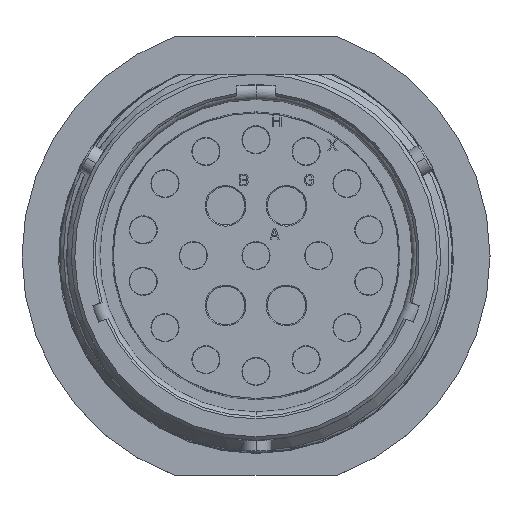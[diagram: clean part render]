
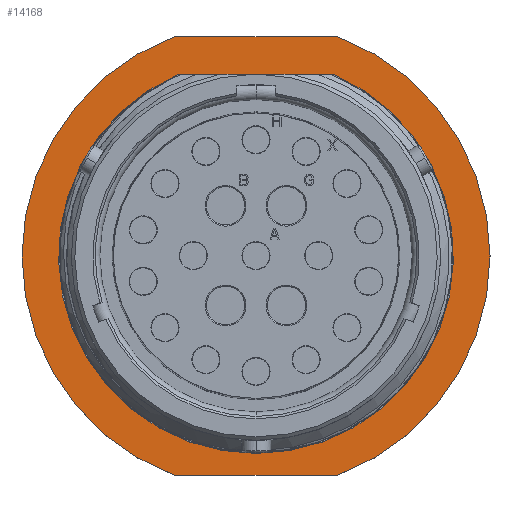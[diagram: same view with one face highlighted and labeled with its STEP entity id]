
A CAD part, top view. The second image highlights one B-rep face of the part: STEP entity #14168.
In plain terms, the highlighted planar face has unit normal (0, 0, 1).
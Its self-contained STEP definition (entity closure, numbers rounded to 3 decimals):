
#2253=CARTESIAN_POINT('',(0.,0.,-26.162));
#2254=DIRECTION('',(0.,0.,-1.));
#2255=DIRECTION('',(0.397,0.918,0.));
#2256=AXIS2_PLACEMENT_3D('',#2253,#2254,#2255);
#2262=DIRECTION('',(-1.,0.,0.));
#2263=VECTOR('',#2262,17.678);
#2264=CARTESIAN_POINT('',(8.839,-23.813,-26.162));
#2265=LINE('',#2264,#2263);
#2266=CARTESIAN_POINT('',(0.,0.,-26.162));
#2267=DIRECTION('',(0.,0.,1.));
#2268=DIRECTION('',(-0.348,0.938,0.));
#2269=AXIS2_PLACEMENT_3D('',#2266,#2267,#2268);
#2271=DIRECTION('',(1.,0.,0.));
#2272=VECTOR('',#2271,17.678);
#2273=CARTESIAN_POINT('',(-8.839,23.813,-26.162));
#2274=LINE('',#2273,#2272);
#2275=CARTESIAN_POINT('',(0.,0.,-26.162));
#2276=DIRECTION('',(0.,0.,-1.));
#2277=DIRECTION('',(0.348,0.938,0.));
#2278=AXIS2_PLACEMENT_3D('',#2275,#2276,#2277);
#2280=DIRECTION('',(1.,0.,0.));
#2281=VECTOR('',#2280,17.035);
#2282=CARTESIAN_POINT('',(-8.518,19.666,-26.162));
#2283=LINE('',#2282,#2281);
#7078=CARTESIAN_POINT('',(-8.839,-23.813,-26.162));
#7079=VERTEX_POINT('',#7078);
#7080=CARTESIAN_POINT('',(-8.839,23.813,-26.162));
#7081=VERTEX_POINT('',#7080);
#7082=CARTESIAN_POINT('',(8.839,-23.813,-26.162));
#7083=VERTEX_POINT('',#7082);
#7084=CARTESIAN_POINT('',(8.839,23.813,-26.162));
#7085=VERTEX_POINT('',#7084);
#7245=CARTESIAN_POINT('',(-8.518,19.666,-26.162));
#7247=VERTEX_POINT('',#7245);
#7291=CARTESIAN_POINT('',(8.518,19.666,-26.162));
#7292=VERTEX_POINT('',#7291);
#14149=CARTESIAN_POINT('',(0.,0.,-26.162));
#14150=DIRECTION('',(0.,0.,1.));
#14151=DIRECTION('',(0.,1.,0.));
#14152=AXIS2_PLACEMENT_3D('',#14149,#14150,#14151);
#14153=PLANE('',#14152);
#14155=ORIENTED_EDGE('',*,*,#14154,.T.);
#14157=ORIENTED_EDGE('',*,*,#14156,.F.);
#14159=ORIENTED_EDGE('',*,*,#14158,.T.);
#14161=ORIENTED_EDGE('',*,*,#14160,.T.);
#14162=EDGE_LOOP('',(#14155,#14157,#14159,#14161));
#14163=FACE_OUTER_BOUND('',#14162,.F.);
#14164=ORIENTED_EDGE('',*,*,#14143,.F.);
#14165=ORIENTED_EDGE('',*,*,#9031,.F.);
#14166=EDGE_LOOP('',(#14164,#14165));
#14167=FACE_BOUND('',#14166,.F.);
#2257=CIRCLE('',#2256,21.431);
#2270=CIRCLE('',#2269,25.4);
#2279=CIRCLE('',#2278,25.4);
#9031=EDGE_CURVE('',#7247,#7292,#2283,.T.);
#14143=EDGE_CURVE('',#7292,#7247,#2257,.T.);
#14154=EDGE_CURVE('',#7083,#7079,#2265,.T.);
#14156=EDGE_CURVE('',#7081,#7079,#2270,.T.);
#14158=EDGE_CURVE('',#7081,#7085,#2274,.T.);
#14160=EDGE_CURVE('',#7085,#7083,#2279,.T.);
#14168=ADVANCED_FACE('',(#14163,#14167),#14153,.T.);
